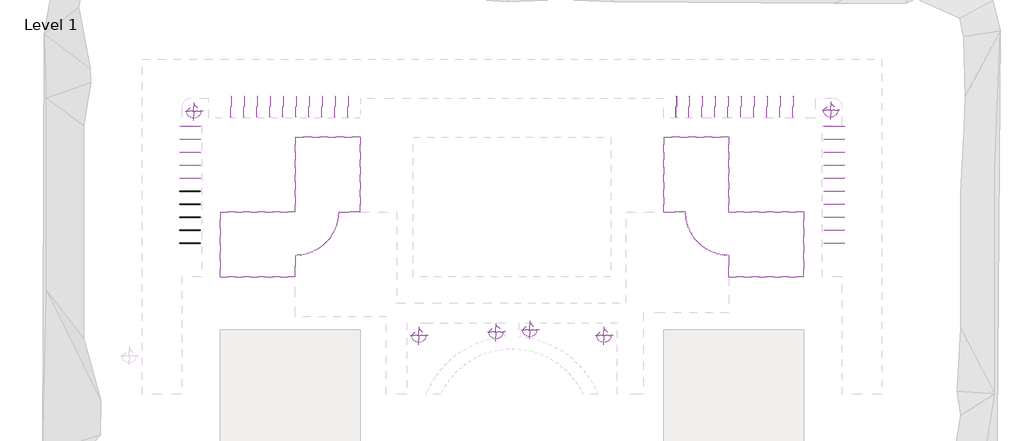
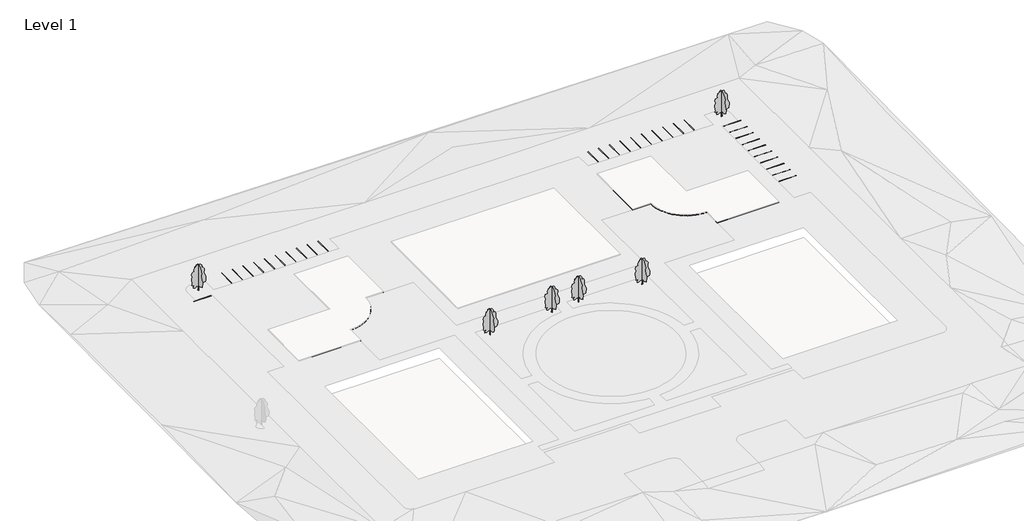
# One storey, part 3 of 3: 43 proxies, 6 geographic elements.
"""IFC4 building model written with IfcOpenShell, lengths in millimetres."""

import ifcopenshell
import ifcopenshell.guid

model = None  # the IFC model being written
_history = None  # IfcOwnerHistory: only IFC2X3 demands one
_inside = {}  # id of a spatial element -> (the spatial element, [elements in it])
_under = {}  # id of a project, library or spatial element -> (it, [spatial elements below it])
_declared = {}  # id of a project -> (the project, [libraries it declares])
_typed = {}  # id of a type object -> (the type object, [elements of that type])
_made_of = {}  # id of a material, layer set ... -> (it, [elements and type objects made of it])


def new_model(schema):
    """Start an empty IFC model of exactly this schema.

    Asked for "IFC4X3", IfcOpenShell would pick the latest addendum, in which some entities
    have other attributes; the version numbers below select the first issue.
    IFC2X3 requires an IfcOwnerHistory on every rooted entity: one is made here for all.
    """
    global model, _history
    if schema == "IFC4X3":
        model = ifcopenshell.file(schema_version=(4, 3, 0, 0))
    else:
        model = ifcopenshell.file(schema=schema)
    _inside.clear()
    _under.clear()
    _declared.clear()
    _typed.clear()
    _made_of.clear()
    _history = None
    if model.schema == "IFC2X3":
        org = make("IfcOrganization", Name="unknown")
        user = make(
            "IfcPersonAndOrganization",
            ThePerson=make("IfcPerson", FamilyName="unknown"),
            TheOrganization=org,
        )
        app = make(
            "IfcApplication",
            ApplicationDeveloper=org,
            Version="unknown",
            ApplicationFullName="unknown",
            ApplicationIdentifier="unknown",
        )
        _history = make(
            "IfcOwnerHistory",
            OwningUser=user,
            OwningApplication=app,
            ChangeAction="ADDED",
            CreationDate=0,
        )
    return model


def make(cls, **values):
    """One entity of the class cls with the attributes given. An attribute that is None is left unset."""
    return model.create_entity(
        cls, **{name: value for name, value in values.items() if value is not None}
    )


def rooted(cls, **values):
    """An entity with a GlobalId (a new one), such as an element, a storey or a relation."""
    return make(cls, GlobalId=ifcopenshell.guid.new(), OwnerHistory=_history, **values)


def si_unit(unit_type, name, prefix=None):
    """IfcSIUnit, for example si_unit("LENGTHUNIT", "METRE", prefix="MILLI")."""
    return make("IfcSIUnit", UnitType=unit_type, Prefix=prefix, Name=name)


def assignment(units):
    """IfcUnitAssignment: the units of a project."""
    return None if units is None else make("IfcUnitAssignment", Units=units)


def point(xyz):
    """IfcCartesianPoint."""
    return None if xyz is None else make("IfcCartesianPoint", Coordinates=xyz)


def direction(xyz):
    """IfcDirection."""
    return None if xyz is None else make("IfcDirection", DirectionRatios=xyz)


def frame(location, z_axis=None, x_axis=None):
    """IfcAxis2Placement3D, a coordinate frame: its origin and axes. An axis left out is left unset."""
    return make(
        "IfcAxis2Placement3D",
        Location=point(location),
        Axis=direction(z_axis),
        RefDirection=direction(x_axis),
    )


def origin():
    """The frame at (0, 0, 0) with its axes left unset."""
    return frame((0.0, 0.0, 0.0))


def origin_with_axes():
    """The frame at (0, 0, 0) with the z axis (0, 0, 1) and the x axis (1, 0, 0) written out."""
    return frame((0.0, 0.0, 0.0), z_axis=(0.0, 0.0, 1.0), x_axis=(1.0, 0.0, 0.0))


def place(relative_to, where):
    """IfcLocalPlacement: puts the frame where relative to a parent placement (None: the world)."""
    return make(
        "IfcLocalPlacement", PlacementRelTo=relative_to, RelativePlacement=where
    )


def context(
    kind, dimensions, precision=None, world=None, true_north=None, identifier=None
):
    """IfcGeometricRepresentationContext, for example the 3D "Model" context."""
    return make(
        "IfcGeometricRepresentationContext",
        ContextIdentifier=identifier,
        ContextType=kind,
        CoordinateSpaceDimension=dimensions,
        Precision=precision,
        WorldCoordinateSystem=world,
        TrueNorth=true_north,
    )


def project(units=None, contexts=None):
    """IfcProject with its units and contexts."""
    return rooted(
        "IfcProject",
        Name="project",
        RepresentationContexts=contexts,
        UnitsInContext=assignment(units),
    )


def spatial(cls, under=None, at=None, **own):
    """A site, building, storey or space (cls), placed at a placement, below another one or the project."""
    s = rooted(cls, ObjectPlacement=at, **own)
    if under is not None:
        _under.setdefault(under.id(), (under, []))[1].append(s)
    return s


def polyline(points):
    """IfcPolyline through the points."""
    return make("IfcPolyline", Points=[point(p) for p in points])


def point_list(points):
    """IfcCartesianPointList2D or 3D."""
    cls = (
        "IfcCartesianPointList2D" if len(points[0]) == 2 else "IfcCartesianPointList3D"
    )
    return make(cls, CoordList=points)


def outline(outer, holes=None, kind="AREA"):
    """IfcArbitraryClosedProfileDef: a profile drawn as a closed curve; with holes, ...WithVoids."""
    if holes is None:
        return make("IfcArbitraryClosedProfileDef", ProfileType=kind, OuterCurve=outer)
    return make(
        "IfcArbitraryProfileDefWithVoids",
        ProfileType=kind,
        OuterCurve=outer,
        InnerCurves=holes,
    )


def extrude(swept, where, along, depth):
    """IfcExtrudedAreaSolid: the profile swept, set in the frame where, extruded along a direction by depth."""
    return make(
        "IfcExtrudedAreaSolid",
        SweptArea=swept,
        Position=where,
        ExtrudedDirection=direction(along),
        Depth=depth,
    )


def triangles(points, corners, closed=None, point_numbers=None):
    """IfcTriangulatedFaceSet: each triangle names its three corners, points numbered from 1."""
    return make(
        "IfcTriangulatedFaceSet",
        Coordinates=point_list(points),
        Closed=closed,
        CoordIndex=corners,
        PnIndex=point_numbers,
    )


def shape(context_of_items, identifier, shape_type, items):
    """IfcShapeRepresentation: the items that make up one representation, for example the "Body"."""
    return make(
        "IfcShapeRepresentation",
        ContextOfItems=context_of_items,
        RepresentationIdentifier=identifier,
        RepresentationType=shape_type,
        Items=items,
    )


def source(mapping_origin, context_of_items, identifier, shape_type, items):
    """IfcRepresentationMap: a shape defined once, which mapped items show again and again."""
    return make(
        "IfcRepresentationMap",
        MappingOrigin=mapping_origin,
        MappedRepresentation=shape(context_of_items, identifier, shape_type, items),
    )


def transform(
    local_origin,
    x_axis=None,
    y_axis=None,
    z_axis=None,
    scale=None,
    scale2=None,
    scale3=None,
    uniform=True,
):
    """IfcCartesianTransformationOperator3D, or its non-uniform kind. x_axis, y_axis, z_axis: its Axis1, 2, 3."""
    if uniform:
        return make(
            "IfcCartesianTransformationOperator3D",
            Axis1=direction(x_axis),
            Axis2=direction(y_axis),
            LocalOrigin=point(local_origin),
            Scale=scale,
            Axis3=direction(z_axis),
        )
    return make(
        "IfcCartesianTransformationOperator3DnonUniform",
        Axis1=direction(x_axis),
        Axis2=direction(y_axis),
        LocalOrigin=point(local_origin),
        Scale=scale,
        Axis3=direction(z_axis),
        Scale2=scale2,
        Scale3=scale3,
    )


def mapped(mapping_source, mapping_target):
    """IfcMappedItem: shows the shape of a source again, moved by a transform."""
    return make(
        "IfcMappedItem", MappingSource=mapping_source, MappingTarget=mapping_target
    )


def made_of(thing, what):
    """Note that an element or type object is made of a material, layer set ...; save() writes the relation."""
    if what is not None:
        _made_of.setdefault(what.id(), (what, []))[1].append(thing)
    return thing


def element(
    cls,
    number,
    at=None,
    inside=None,
    cuts=None,
    type_object=None,
    material=None,
    context=None,
    identifier="Body",
    shape_type=None,
    held_by="IfcProductDefinitionShape",
    body=None,
    shapes=None,
    **own,
):
    """One element of the class cls, such as IfcWall. Its Tag is "e" and its number.

    at: its placement. inside: the storey or other place that contains it. cuts: it is an
    opening in that element (IfcRelVoidsElement). A single representation is given by context,
    identifier, shape_type and body (its items); several are given by shapes. held_by: the class
    of the entity that holds the representations. save() writes the other relations.
    """
    e = rooted(cls, Tag="e%d" % number, ObjectPlacement=at, **own)
    if body is not None:
        shapes = [shape(context, identifier, shape_type, body)]
    if shapes is not None:
        e.Representation = make(held_by, Representations=shapes)
    if inside is not None:
        _inside.setdefault(inside.id(), (inside, []))[1].append(e)
    if cuts is not None:
        rooted(
            "IfcRelVoidsElement", RelatingBuildingElement=cuts, RelatedOpeningElement=e
        )
    if type_object is not None:
        _typed.setdefault(type_object.id(), (type_object, []))[1].append(e)
    return made_of(e, material)


def aggregate(whole, parts):
    """IfcRelAggregates: a whole, such as a stair, and the parts it consists of."""
    return rooted("IfcRelAggregates", RelatingObject=whole, RelatedObjects=parts)


def save(model, path):
    """Write the relations noted so far, then the file.

    IfcRelAggregates (storeys below a building ...), IfcRelContainedInSpatialStructure (elements
    in a storey), IfcRelDefinesByType, IfcRelAssociatesMaterial and IfcRelDeclares: one each for
    every whole, place, type object, material and project.
    """
    for whole, parts in _under.values():
        aggregate(whole, parts)
    for where, things in _inside.values():
        rooted(
            "IfcRelContainedInSpatialStructure",
            RelatedElements=things,
            RelatingStructure=where,
        )
    for kind, things in _typed.values():
        rooted("IfcRelDefinesByType", RelatedObjects=things, RelatingType=kind)
    for what, things in _made_of.values():
        rooted("IfcRelAssociatesMaterial", RelatedObjects=things, RelatingMaterial=what)
    for by, libraries in _declared.values():
        rooted("IfcRelDeclares", RelatingContext=by, RelatedDefinitions=libraries)
    model.write(path)


def m_parking_space_4800_x_2400mm_90_deg_2b7ae786(model_context):
    return source(origin(), model_context, "Body", "SweptSolid", [
        extrude(outline(polyline([(-50.8, 0.0), (50.8, 0.0), (50.8, -4800.0), (-50.8, -4800.0), (-50.8, 0.0)])), origin_with_axes(), (0.0, 0.0, 1.0), 3.175),
    ])


def m_parking_space_4800_x_2400mm_90_deg_cf846cf7(model_context):
    return source(origin(), model_context, "Body", "SweptSolid", [
        extrude(outline(polyline([(-50.8, 0.0), (-50.8, 4800.0), (50.8, 4800.0), (50.8, 0.0), (-50.8, 0.0)])), origin_with_axes(), (0.0, 0.0, 1.0), 3.175),
    ])


def m_rpc_tree_deciduous_red_ash_7_6_meters_16c8020d(model_context):
    return source(origin(), model_context, "Body", "Tessellation", [
        triangles([(-1640.6350319, 0.0, 6.17e-05), (-1597.2618073, -375.9250554, 6.17e-05), (-1473.7362076, -721.1521299, 6.17e-05), (-1279.9481815, -1025.7899305, 6.17e-05), (-1025.7900759, -1279.9483269, 6.17e-05), (-721.1519119, -1473.7357716, 6.17e-05), (-375.9249101, -1597.2618073, 6.17e-05), (7.17e-05, -1640.6350319, 6.17e-05), (375.9250917, -1597.2619526, 6.17e-05), (721.1521299, -1473.7360622, 6.17e-05), (1025.7900759, -1279.9481815, 6.17e-05), (1279.9486176, -1025.7900759, 6.17e-05), (1473.7359169, -721.1518393, 6.17e-05), (1597.2618073, -375.9248011, 6.17e-05), (1640.6350319, 0.0001434, 6.17e-05), (-0.0002151, 1640.6350319, 6.17e-05), (-1.07e-05, -102.5763152, 0.0), (2.5e-05, -100.9809819, 1191.4187742), (3.22e-05, -129.5410573, 1533.7667004), (7e-07, -437.6736119, 1554.0757805), (-5.76e-05, -973.8285673, 1474.4268631), (-0.0001401, -1898.6961697, 1943.5624718), (-0.0001409, -2005.9272697, 2292.063438), (-0.0001357, -2139.9660358, 2935.4493118), (-0.0001116, -2099.7546822, 3605.6435783), (-5.8e-05, -1735.814106, 4130.1484818), (-5.5e-06, -1523.3897175, 5147.0898972), (-3.5e-06, -1711.0423622, 5870.899205), (4.78e-05, -1402.7536217, 6514.2855148), (0.0001565, -625.3287638, 7439.1534805), (0.000198, -272.4836404, 7598.1990051), (0.0002655, 393.3664327, 7532.9808929), (0.0003113, 1023.3488731, 6862.7869171), (0.0003141, 1211.0034073, 6299.8236053), (0.0003314, 1492.4837551, 5897.706871), (0.0003588, 1800.7742397, 5736.8608749), (0.0003522, 1814.1780727, 5468.7830521), (0.0003514, 1894.6015068, 5160.4937302), (0.0003267, 1760.5627407, 4798.5890762), (0.0003288, 1881.1975285, 4450.088546), (0.000327, 2001.8324615, 3967.5488136), (0.0003203, 1975.0247955, 3833.5096115), (0.0002869, 1747.159053, 3511.8164566), (0.0002722, 1732.7516476, 3069.4885139), (0.0002625, 1720.3510963, 2788.0068581), (0.0002535, 1733.7549294, 2439.5063278), (0.0002406, 1747.159053, 1956.9668861), (0.0002166, 1559.5045189, 1809.523851), (0.0001802, 1211.0038433, 1809.523851), (0.0001822, 1371.8504208, 1313.580431), (0.0001711, 1344.9556961, 1032.1683203), (0.0001512, 1100.1359739, 1224.6137684), (9.84e-05, 627.810589, 1103.8028286), (9.77e-05, 550.2637599, 1353.49907), (6.27e-05, 215.346067, 1350.4488201), (5.01e-05, 130.4579254, 1225.1105404), (3.26e-05, 79.3405423, 816.1354311), (1.17e-05, 111.8716144, 1.28e-05), (-110.5798692, 4.8e-06, 4.45e-05), (-66.5363775, -9.62e-05, 831.3140104), (-128.9679092, -0.0001356, 1184.825572), (-290.0246482, -0.0001497, 1361.7341778), (-482.3670685, -0.0001405, 1355.1302204), (-794.1778324, -0.0001027, 1152.7338535), (-1424.1601639, -6.88e-05, 1099.1184488), (-1415.4458702, -7.33e-05, 1133.7810133), (-1406.1451298, -7.8e-05, 1169.6158899), (-1395.6722225, -8.3e-05, 1207.7952456), (-1383.4407017, -8.85e-05, 1249.4921917), (-1368.8645565, -9.46e-05, 1295.8774418), (-1351.3574856, -0.0001016, 1348.1257061), (-1330.3333328, -0.0001096, 1407.4074074), (-1303.8382931, -0.0001173, 1462.3908245), (-1271.0123898, -0.0001236, 1502.6024689), (-1232.9109364, -0.0001286, 1530.5039635), (-1190.588883, -0.0001326, 1548.5586754), (-1145.1018339, -0.0001358, 1559.2267742), (-1097.5041578, -0.0001386, 1564.971191), (-1048.8515316, -0.0001411, 1568.2539848), (-1196.294058, -0.0001698, 1863.1393284), (-1625.218531, -0.0001415, 1782.7160397), (-1866.4879612, -0.0001597, 2023.9861965), (-1719.0452168, -0.0001869, 2198.236607), (-1759.2568611, -0.0002427, 2680.7764847), (-1906.6994602, -0.0003433, 3578.8359123), (-1893.4979404, -0.0003882, 3950.7687332), (-1715.4032879, -0.0004676, 4551.3483536), (-1946.9112499, -0.0005333, 5187.3013962), (-1772.6605488, -0.0006144, 5803.88004), (-1410.7561855, -0.000643, 5911.1112854), (-1135.4252443, -0.0006608, 5959.6792511), (-1236.5059204, -0.0007209, 6500.8816818), (-928.2163805, -0.0007999, 7050.4411606), (-351.8493811, -0.0008874, 7573.192392), (117.2860368, -0.0009111, 7600.000058), (532.8066133, -0.0009277, 7586.5956436), (881.3074705, -0.000887, 7117.4603256), (945.3842279, -0.0008079, 6430.5952744), (936.1832634, -0.0007775, 6178.7100677), (1283.4236961, -0.0008311, 6500.8816818), (1618.5208294, -0.0007802, 5951.3222031), (1605.1169964, -0.0007177, 5432.2143539), (1545.3907001, -0.0006383, 4788.0519287), (1739.1557625, -0.0005793, 4222.2222221), (2126.1689129, -0.0005054, 3460.0925789), (2138.5076946, -0.0004374, 2885.2169128), (2060.8486267, -0.0003521, 2198.2364616), (1940.213839, -0.0003133, 1916.7548058), (1698.9439728, -0.0002996, 1889.9471397), (1229.8082188, -0.0002535, 1675.4849396), (814.2876514, -0.0002002, 1380.5997414), (256.8007496, -0.0002044, 1620.3048775), (92.8066444, -0.0001762, 1443.8352711), (103.8818677, -4.5e-06, 3.51e-05)], [[15, 16, 1], [14, 15, 1], [14, 1, 2], [13, 14, 2], [13, 2, 3], [13, 3, 4], [12, 13, 4], [11, 12, 4], [11, 4, 5], [11, 5, 6], [11, 6, 7], [11, 7, 8], [11, 8, 9], [11, 9, 10], [50, 51, 52], [57, 58, 17], [57, 17, 18], [56, 57, 18], [56, 18, 19], [55, 56, 19], [49, 50, 52], [52, 53, 54], [49, 52, 54], [35, 36, 37], [46, 47, 48], [46, 48, 49], [21, 22, 23], [20, 21, 23], [20, 23, 24], [20, 24, 25], [20, 25, 26], [19, 20, 26], [19, 26, 27], [45, 46, 49], [31, 32, 33], [30, 31, 33], [29, 30, 33], [29, 33, 34], [28, 29, 34], [27, 28, 34], [19, 27, 34], [19, 34, 35], [19, 35, 37], [19, 37, 38], [19, 38, 39], [19, 39, 40], [19, 40, 41], [19, 41, 42], [19, 42, 43], [19, 43, 44], [19, 44, 45], [19, 45, 49], [19, 49, 54], [55, 19, 54], [64, 65, 66], [64, 66, 67], [64, 67, 68], [99, 100, 101], [64, 68, 69], [64, 69, 70], [64, 70, 71], [114, 59, 60], [113, 114, 60], [113, 60, 61], [113, 61, 62], [64, 71, 72], [64, 72, 73], [64, 73, 74], [64, 74, 75], [64, 75, 76], [64, 76, 77], [64, 77, 78], [64, 78, 79], [63, 64, 79], [81, 82, 83], [80, 81, 83], [99, 101, 102], [107, 108, 109], [110, 111, 112], [88, 89, 90], [87, 88, 90], [87, 90, 91], [80, 83, 84], [95, 96, 97], [95, 97, 98], [94, 95, 98], [93, 94, 98], [92, 93, 98], [91, 92, 98], [91, 98, 99], [87, 91, 99], [87, 99, 102], [87, 102, 103], [87, 103, 104], [86, 87, 104], [85, 86, 104], [84, 85, 104], [80, 84, 104], [80, 104, 105], [80, 105, 106], [80, 106, 107], [80, 107, 109], [80, 109, 110], [80, 110, 112], [79, 80, 112], [63, 79, 112], [62, 63, 112], [113, 62, 112]], closed=False),
    ])


model = new_model("IFC4")

# Units and contexts
model_context = context("Model", 3, world=origin())
ifc_project = project(units=[si_unit("LENGTHUNIT", "METRE", prefix="MILLI")], contexts=[model_context])

# Site, building, storey
site = spatial("IfcSite", under=ifc_project)
building = spatial("IfcBuilding", under=site)
storey = spatial("IfcBuildingStorey", under=building, Name="Level 1", Elevation=0.0)

# Proxies
placement = place(None, origin())
element("IfcBuildingElementProxy", 1, Name="Building Element Proxy", at=placement, inside=storey, context=model_context, shape_type="Tessellation", body=[
    triangles([(-35191.6798462, 32541.3578979, 3047.8404167), (-35191.6798462, 32541.3578979, 3049.9998779), (-35191.6798462, 48882.337207, 3047.8404167), (-35191.6798462, 48882.337207, 3049.9998779), (-35191.6798462, 49849.357251, 3047.8404167), (-35191.6798462, 49849.357251, 3049.9998779), (-43466.7003296, 49849.357251, 3047.8404167), (-43466.7003296, 49849.357251, 3049.9998779), (-50191.680542, 49849.357251, 3047.8404167), (-50191.680542, 49849.357251, 3049.9998779), (-50191.680542, 44684.7283081, 3047.8404167), (-50191.680542, 44684.7283081, 3049.9998779), (-50191.680542, 32541.3578979, 3047.8404167), (-50191.680542, 32541.3578979, 3049.9998779), (-66003.8409668, 32541.3578979, 3047.8404167), (-66003.8409668, 32541.3578979, 3049.9998779), (-67499.679895, 32541.3578979, 3047.8404167), (-67499.679895, 32541.3578979, 3049.9998779), (-67499.679895, 31392.5861572, 3047.8404167), (-67499.679895, 31392.5861572, 3049.9998779), (-67499.679895, 17541.3572021, 3047.8404167), (-67499.679895, 17541.3572021, 3049.9998779)], [[1, 4, 2], [1, 3, 4], [3, 6, 4], [3, 5, 6], [5, 8, 6], [5, 7, 8], [7, 10, 8], [7, 9, 10], [9, 12, 10], [9, 11, 12], [11, 14, 12], [11, 13, 14], [13, 16, 14], [13, 15, 16], [15, 18, 16], [15, 17, 18], [17, 20, 18], [17, 19, 20], [19, 22, 20], [19, 21, 22]], closed=False),
    triangles([(-67499.679895, 17541.3572021, 3047.8404167), (-67499.679895, 17541.3572021, 3049.9998779), (-60277.078894, 17541.3572021, 3047.8404167), (-60277.078894, 17541.3572021, 3049.9998779), (-50191.680542, 17541.3572021, 3047.8404167), (-50191.680542, 17541.3572021, 3049.9998779)], [[1, 4, 2], [1, 3, 4], [3, 6, 4], [3, 5, 6]], closed=False),
    triangles([(-50191.680542, 17541.3572021, 3047.8404167), (-50191.680542, 17541.3572021, 3049.9998779), (-50191.680542, 22541.3566589, 3047.8404167), (-50191.680542, 22541.3566589, 3049.9998779), (-49211.5078125, 22589.5095337, 3047.8404167), (-49211.5078125, 22589.5095337, 3049.9998779), (-48240.7763672, 22733.5053955, 3047.8404167), (-48240.7763672, 22733.5053955, 3049.9998779), (-47288.8344727, 22971.9536316, 3047.8404167), (-47288.8344727, 22971.9536316, 3049.9998779), (-46364.8443604, 23302.5613586, 3047.8404167), (-46364.8443604, 23302.5613586, 3049.9998779), (-45477.7124634, 23722.14505, 3047.8404167), (-45477.7124634, 23722.14505, 3049.9998779), (-44635.9777954, 24226.6607666, 3047.8404167), (-44635.9777954, 24226.6607666, 3049.9998779), (-43847.7468384, 24811.2529907, 3047.8404167), (-43847.7468384, 24811.2529907, 3049.9998779), (-43120.6144775, 25470.2895081, 3047.8404167), (-43120.6144775, 25470.2895081, 3049.9998779), (-42461.5756348, 26197.4241943, 3047.8404167), (-42461.5756348, 26197.4241943, 3049.9998779), (-41876.9834106, 26985.6551514, 3047.8404167), (-41876.9834106, 26985.6551514, 3049.9998779), (-41372.4700195, 27827.3898193, 3047.8404167), (-41372.4700195, 27827.3898193, 3049.9998779), (-40952.8863281, 28714.5240417, 3047.8404167), (-40952.8863281, 28714.5240417, 3049.9998779), (-40622.2786011, 29638.5095032, 3047.8404167), (-40622.2786011, 29638.5095032, 3049.9998779), (-40383.8280396, 30590.4537231, 3047.8404167), (-40383.8280396, 30590.4537231, 3049.9998779), (-40239.8321777, 31561.1851685, 3047.8404167), (-40239.8321777, 31561.1851685, 3049.9998779), (-40191.6816284, 32541.3578979, 3047.8404167), (-40191.6816284, 32541.3578979, 3049.9998779), (-35191.6798462, 32541.3578979, 3047.8404167), (-35191.6798462, 32541.3578979, 3049.9998779)], [[1, 4, 2], [1, 3, 4], [3, 6, 4], [3, 5, 6], [5, 8, 6], [5, 7, 8], [7, 10, 8], [7, 9, 10], [9, 12, 10], [9, 11, 12], [11, 14, 12], [11, 13, 14], [13, 16, 14], [13, 15, 16], [15, 18, 16], [15, 17, 18], [17, 20, 18], [17, 19, 20], [19, 22, 20], [19, 21, 22], [21, 24, 22], [21, 23, 24], [23, 26, 24], [23, 25, 26], [25, 28, 26], [25, 27, 28], [27, 30, 28], [27, 29, 30], [29, 32, 30], [29, 31, 32], [31, 34, 32], [31, 33, 34], [33, 36, 34], [33, 35, 36], [35, 38, 36], [35, 37, 38]], closed=False),
    triangles([(-67499.679895, 17541.3572021, 3047.8404167), (-50191.680542, 17541.3572021, 3047.8404167), (-50191.680542, 22541.3566589, 3047.8404167), (-49211.5078125, 22589.5095337, 3047.8404167), (-48240.7763672, 22733.5053955, 3047.8404167), (-47288.8344727, 22971.9536316, 3047.8404167), (-46364.8443604, 23302.5613586, 3047.8404167), (-45477.7124634, 23722.14505, 3047.8404167), (-44635.9777954, 24226.6607666, 3047.8404167), (-43847.7468384, 24811.2529907, 3047.8404167), (-43120.6144775, 25470.2895081, 3047.8404167), (-42461.5756348, 26197.4241943, 3047.8404167), (-41876.9834106, 26985.6551514, 3047.8404167), (-41372.4700195, 27827.3898193, 3047.8404167), (-40952.8863281, 28714.5240417, 3047.8404167), (-40622.2786011, 29638.5095032, 3047.8404167), (-40383.8280396, 30590.4537231, 3047.8404167), (-40239.8321777, 31561.1851685, 3047.8404167), (-40191.6816284, 32541.3578979, 3047.8404167), (-35191.6798462, 32541.3578979, 3047.8404167), (-35191.6798462, 49849.357251, 3047.8404167), (-50191.680542, 49849.357251, 3047.8404167), (-50191.680542, 32541.3578979, 3047.8404167), (-67499.679895, 32541.3578979, 3047.8404167)], [[1, 2, 3], [1, 3, 24], [23, 4, 5], [4, 23, 3], [23, 5, 6], [24, 3, 23], [19, 22, 23], [8, 9, 23], [8, 23, 7], [6, 7, 23], [10, 23, 9], [23, 11, 12], [23, 12, 13], [14, 15, 23], [14, 23, 13], [15, 16, 23], [17, 18, 23], [23, 18, 19], [19, 20, 21], [21, 22, 19], [23, 16, 17], [23, 10, 11]], closed=False),
])
element("IfcBuildingElementProxy", 2, Name="Building Element Proxy", at=placement, inside=storey, context=model_context, shape_type="Tessellation", body=[
    triangles([(49808.3178955, 17541.3572021, 3050.6207703), (49808.3178955, 17541.3572021, 3049.9998779), (67116.3172485, 17541.3572021, 3050.6207703), (67116.3172485, 17541.3572021, 3049.9998779)], [[1, 4, 2], [1, 3, 4]], closed=False),
    triangles([(67116.3172485, 17541.3572021, 3050.6207703), (67116.3172485, 17541.3572021, 3049.9998779), (67116.3172485, 23284.5205994, 3050.6207703), (67116.3172485, 23284.5205994, 3049.9998779), (67116.3172485, 32541.3578979, 3050.6207703), (67116.3172485, 32541.3578979, 3049.9998779), (62183.8555298, 32541.3578979, 3050.6207703), (62183.8555298, 32541.3578979, 3049.9998779), (49808.3178955, 32541.3578979, 3050.6207703), (49808.3178955, 32541.3578979, 3049.9998779), (49808.3178955, 49849.357251, 3050.6207703), (49808.3178955, 49849.357251, 3049.9998779), (40850.0833008, 49849.357251, 3050.6207703), (40850.0833008, 49849.357251, 3049.9998779), (34808.3195251, 49849.357251, 3050.6207703), (34808.3195251, 49849.357251, 3049.9998779), (34808.3195251, 32541.3578979, 3050.6207703), (34808.3195251, 32541.3578979, 3049.9998779)], [[1, 4, 2], [1, 3, 4], [3, 6, 4], [3, 5, 6], [5, 8, 6], [5, 7, 8], [7, 10, 8], [7, 9, 10], [9, 12, 10], [9, 11, 12], [11, 14, 12], [11, 13, 14], [13, 16, 14], [13, 15, 16], [15, 18, 16], [15, 17, 18]], closed=False),
    triangles([(34808.3195251, 32541.3578979, 3050.6207703), (34808.3195251, 32541.3578979, 3049.9998779), (38450.1437439, 32541.3578979, 3050.6207703), (38450.1437439, 32541.3578979, 3049.9998779), (39808.3189819, 32541.3578979, 3050.6207703), (39808.3189819, 32541.3578979, 3049.9998779), (39856.4695313, 31561.1851685, 3050.6207703), (39856.4695313, 31561.1851685, 3049.9998779), (40000.4653931, 30590.4537231, 3050.6207703), (40000.4653931, 30590.4537231, 3049.9998779), (40238.9159546, 29638.5095032, 3050.6207703), (40238.9159546, 29638.5095032, 3049.9998779), (40569.5236816, 28714.5240417, 3050.6207703), (40569.5236816, 28714.5240417, 3049.9998779), (40989.107373, 27827.3898193, 3050.6207703), (40989.107373, 27827.3898193, 3049.9998779), (41493.6207642, 26985.6551514, 3050.6207703), (41493.6207642, 26985.6551514, 3049.9998779), (42078.2129883, 26197.4241943, 3050.6207703), (42078.2129883, 26197.4241943, 3049.9998779), (42737.2518311, 25470.2895081, 3050.6207703), (42737.2518311, 25470.2895081, 3049.9998779), (43464.3841919, 24811.2529907, 3050.6207703), (43464.3841919, 24811.2529907, 3049.9998779), (44252.6151489, 24226.6607666, 3050.6207703), (44252.6151489, 24226.6607666, 3049.9998779), (45094.3498169, 23722.14505, 3050.6207703), (45094.3498169, 23722.14505, 3049.9998779), (45981.4863647, 23302.5613586, 3050.6207703), (45981.4863647, 23302.5613586, 3049.9998779), (46905.4718262, 22971.9536316, 3050.6207703), (46905.4718262, 22971.9536316, 3049.9998779), (47857.4137207, 22733.5053955, 3050.6207703), (47857.4137207, 22733.5053955, 3049.9998779), (48828.1498169, 22589.5095337, 3050.6207703), (48828.1498169, 22589.5095337, 3049.9998779), (49808.3178955, 22541.3566589, 3050.6207703), (49808.3178955, 22541.3566589, 3049.9998779), (49808.3178955, 17541.3572021, 3050.6207703), (49808.3178955, 17541.3572021, 3049.9998779)], [[1, 4, 2], [1, 3, 4], [3, 6, 4], [3, 5, 6], [5, 8, 6], [5, 7, 8], [7, 10, 8], [7, 9, 10], [9, 12, 10], [9, 11, 12], [11, 14, 12], [11, 13, 14], [13, 16, 14], [13, 15, 16], [15, 18, 16], [15, 17, 18], [17, 20, 18], [17, 19, 20], [19, 22, 20], [19, 21, 22], [21, 24, 22], [21, 23, 24], [23, 26, 24], [23, 25, 26], [25, 28, 26], [25, 27, 28], [27, 30, 28], [27, 29, 30], [29, 32, 30], [29, 31, 32], [31, 34, 32], [31, 33, 34], [33, 36, 34], [33, 35, 36], [35, 38, 36], [35, 37, 38], [37, 40, 38], [37, 39, 40]], closed=False),
    triangles([(67116.3172485, 17541.3572021, 3050.6207703), (67116.3172485, 32541.3578979, 3050.6207703), (49808.3178955, 32541.3578979, 3050.6207703), (49808.3178955, 49849.357251, 3050.6207703), (34808.3195251, 49849.357251, 3050.6207703), (34808.3195251, 32541.3578979, 3050.6207703), (39808.3189819, 32541.3578979, 3050.6207703), (39856.4695313, 31561.1851685, 3050.6207703), (40000.4653931, 30590.4537231, 3050.6207703), (40238.9159546, 29638.5095032, 3050.6207703), (40569.5236816, 28714.5240417, 3050.6207703), (40989.107373, 27827.3898193, 3050.6207703), (41493.6207642, 26985.6551514, 3050.6207703), (42078.2129883, 26197.4241943, 3050.6207703), (42737.2518311, 25470.2895081, 3050.6207703), (43464.3841919, 24811.2529907, 3050.6207703), (44252.6151489, 24226.6607666, 3050.6207703), (45094.3498169, 23722.14505, 3050.6207703), (45981.4863647, 23302.5613586, 3050.6207703), (46905.4718262, 22971.9536316, 3050.6207703), (47857.4137207, 22733.5053955, 3050.6207703), (48828.1498169, 22589.5095337, 3050.6207703), (49808.3178955, 22541.3566589, 3050.6207703), (49808.3178955, 17541.3572021, 3050.6207703)], [[11, 3, 10], [11, 12, 3], [14, 3, 13], [3, 12, 13], [15, 3, 14], [5, 6, 7], [4, 5, 7], [3, 8, 9], [8, 3, 7], [10, 3, 9], [3, 15, 16], [21, 3, 20], [22, 3, 21], [24, 1, 23], [23, 1, 2], [23, 3, 22], [3, 17, 18], [3, 18, 19], [4, 7, 3], [3, 19, 20], [23, 2, 3], [3, 16, 17]], closed=False),
])
m_parking_space_4800_x_2400mm_90_deg_shape = m_parking_space_4800_x_2400mm_90_deg_2b7ae786(model_context)
element("IfcBuildingElementProxy", 3, Name="M_Parking Space : 4800 x 2400mm - 90 deg", ObjectType="M_Parking Space : 4800 x 2400mm - 90 deg", at=placement, inside=storey, context=model_context, shape_type="MappedRepresentation", body=[
    mapped(m_parking_space_4800_x_2400mm_90_deg_shape, transform((-72091.6809312, 52283.3477296, 3050.7803686), x_axis=(0.0, -1.0, 0.0), y_axis=(1.0, 0.0, 0.0), z_axis=(0.0, 0.0, 1.0))),
])
element("IfcBuildingElementProxy", 4, Name="M_Parking Space : 4800 x 2400mm - 90 deg", ObjectType="M_Parking Space : 4800 x 2400mm - 90 deg", at=placement, inside=storey, context=model_context, shape_type="MappedRepresentation", body=[
    mapped(m_parking_space_4800_x_2400mm_90_deg_shape, transform((-72091.6809312, 49283.3477296, 2677.9381055), x_axis=(0.0, -1.0, 0.0), y_axis=(1.0, 0.0, 0.0), z_axis=(0.0, 0.0, 1.0))),
])
element("IfcBuildingElementProxy", 5, Name="M_Parking Space : 4800 x 2400mm - 90 deg", ObjectType="M_Parking Space : 4800 x 2400mm - 90 deg", at=placement, inside=storey, context=model_context, shape_type="MappedRepresentation", body=[
    mapped(m_parking_space_4800_x_2400mm_90_deg_shape, transform((-72091.6809312, 46283.3477296, 2305.0958423), x_axis=(0.0, -1.0, 0.0), y_axis=(1.0, 0.0, 0.0), z_axis=(0.0, 0.0, 1.0))),
])
element("IfcBuildingElementProxy", 6, Name="M_Parking Space : 4800 x 2400mm - 90 deg", ObjectType="M_Parking Space : 4800 x 2400mm - 90 deg", at=placement, inside=storey, context=model_context, shape_type="MappedRepresentation", body=[
    mapped(m_parking_space_4800_x_2400mm_90_deg_shape, transform((-72091.6809312, 43283.3477296, 1932.2535791), x_axis=(0.0, -1.0, 0.0), y_axis=(1.0, 0.0, 0.0), z_axis=(0.0, 0.0, 1.0))),
])
element("IfcBuildingElementProxy", 7, Name="M_Parking Space : 4800 x 2400mm - 90 deg", ObjectType="M_Parking Space : 4800 x 2400mm - 90 deg", at=placement, inside=storey, context=model_context, shape_type="MappedRepresentation", body=[
    mapped(m_parking_space_4800_x_2400mm_90_deg_shape, transform((-72091.6809312, 40283.3477296, 1559.4113159), x_axis=(0.0, -1.0, 0.0), y_axis=(1.0, 0.0, 0.0), z_axis=(0.0, 0.0, 1.0))),
])
element("IfcBuildingElementProxy", 8, Name="M_Parking Space : 4800 x 2400mm - 90 deg", ObjectType="M_Parking Space : 4800 x 2400mm - 90 deg", at=placement, inside=storey, context=model_context, shape_type="MappedRepresentation", body=[
    mapped(m_parking_space_4800_x_2400mm_90_deg_shape, transform((-72091.6809312, 37283.3477296, 1186.5690527), x_axis=(0.0, -1.0, 0.0), y_axis=(1.0, 0.0, 0.0), z_axis=(0.0, 0.0, 1.0))),
])
element("IfcBuildingElementProxy", 9, Name="M_Parking Space : 4800 x 2400mm - 90 deg", ObjectType="M_Parking Space : 4800 x 2400mm - 90 deg", at=placement, inside=storey, context=model_context, shape_type="MappedRepresentation", body=[
    mapped(m_parking_space_4800_x_2400mm_90_deg_shape, transform((-72091.6809312, 34283.3477296, 813.7267895), x_axis=(0.0, -1.0, 0.0), y_axis=(1.0, 0.0, 0.0), z_axis=(0.0, 0.0, 1.0))),
])
element("IfcBuildingElementProxy", 10, Name="M_Parking Space : 4800 x 2400mm - 90 deg", ObjectType="M_Parking Space : 4800 x 2400mm - 90 deg", at=placement, inside=storey, context=model_context, shape_type="MappedRepresentation", body=[
    mapped(m_parking_space_4800_x_2400mm_90_deg_shape, transform((-72091.6809312, 31283.3477296, 440.8845264), x_axis=(0.0, -1.0, 0.0), y_axis=(1.0, 0.0, 0.0), z_axis=(0.0, 0.0, 1.0))),
])
element("IfcBuildingElementProxy", 11, Name="M_Parking Space : 4800 x 2400mm - 90 deg", ObjectType="M_Parking Space : 4800 x 2400mm - 90 deg", at=placement, inside=storey, context=model_context, shape_type="MappedRepresentation", body=[
    mapped(m_parking_space_4800_x_2400mm_90_deg_shape, transform((-72091.6809312, 28283.3477296, 68.0422632), x_axis=(0.0, -1.0, 0.0), y_axis=(1.0, 0.0, 0.0), z_axis=(0.0, 0.0, 1.0))),
])
element("IfcBuildingElementProxy", 12, Name="M_Parking Space : 4800 x 2400mm - 90 deg", ObjectType="M_Parking Space : 4800 x 2400mm - 90 deg", at=placement, inside=storey, context=model_context, shape_type="MappedRepresentation", body=[
    mapped(m_parking_space_4800_x_2400mm_90_deg_shape, transform((-72091.6809312, 25283.3477296, -304.8), x_axis=(0.0, -1.0, 0.0), y_axis=(1.0, 0.0, 0.0), z_axis=(0.0, 0.0, 1.0))),
])
element("IfcBuildingElementProxy", 13, Name="M_Parking Space : 4800 x 2400mm - 90 deg", ObjectType="M_Parking Space : 4800 x 2400mm - 90 deg", at=placement, inside=storey, context=model_context, shape_type="MappedRepresentation", body=[
    mapped(m_parking_space_4800_x_2400mm_90_deg_shape, transform((37727.0851752, 54488.1216781, 2766.1912155), x_axis=(-1.0, 0.0, 0.0), y_axis=(0.0, -1.0, 0.0), z_axis=(0.0, 0.0, 1.0))),
])
element("IfcBuildingElementProxy", 14, Name="M_Parking Space : 4800 x 2400mm - 90 deg", ObjectType="M_Parking Space : 4800 x 2400mm - 90 deg", at=placement, inside=storey, context=model_context, shape_type="MappedRepresentation", body=[
    mapped(m_parking_space_4800_x_2400mm_90_deg_shape, transform((37676.2851752, 54488.1216781, 3050.7803686), x_axis=(-1.0, 0.0, 0.0), y_axis=(0.0, -1.0, 0.0), z_axis=(0.0, 0.0, 1.0))),
])
element("IfcBuildingElementProxy", 15, Name="M_Parking Space : 4800 x 2400mm - 90 deg", ObjectType="M_Parking Space : 4800 x 2400mm - 90 deg", at=placement, inside=storey, context=model_context, shape_type="MappedRepresentation", body=[
    mapped(m_parking_space_4800_x_2400mm_90_deg_shape, transform((40676.2851752, 54488.1216781, 3050.7803686), x_axis=(-1.0, 0.0, 0.0), y_axis=(0.0, -1.0, 0.0), z_axis=(0.0, 0.0, 1.0))),
])
element("IfcBuildingElementProxy", 16, Name="M_Parking Space : 4800 x 2400mm - 90 deg", ObjectType="M_Parking Space : 4800 x 2400mm - 90 deg", at=placement, inside=storey, context=model_context, shape_type="MappedRepresentation", body=[
    mapped(m_parking_space_4800_x_2400mm_90_deg_shape, transform((43676.2851752, 54488.1216781, 3050.7803686), x_axis=(-1.0, 0.0, 0.0), y_axis=(0.0, -1.0, 0.0), z_axis=(0.0, 0.0, 1.0))),
])
element("IfcBuildingElementProxy", 17, Name="M_Parking Space : 4800 x 2400mm - 90 deg", ObjectType="M_Parking Space : 4800 x 2400mm - 90 deg", at=placement, inside=storey, context=model_context, shape_type="MappedRepresentation", body=[
    mapped(m_parking_space_4800_x_2400mm_90_deg_shape, transform((46676.2851752, 54488.1216781, 3050.7803686), x_axis=(-1.0, 0.0, 0.0), y_axis=(0.0, -1.0, 0.0), z_axis=(0.0, 0.0, 1.0))),
])
element("IfcBuildingElementProxy", 18, Name="M_Parking Space : 4800 x 2400mm - 90 deg", ObjectType="M_Parking Space : 4800 x 2400mm - 90 deg", at=placement, inside=storey, context=model_context, shape_type="MappedRepresentation", body=[
    mapped(m_parking_space_4800_x_2400mm_90_deg_shape, transform((49676.2851752, 54488.1216781, 3050.7803686), x_axis=(-1.0, 0.0, 0.0), y_axis=(0.0, -1.0, 0.0), z_axis=(0.0, 0.0, 1.0))),
])
element("IfcBuildingElementProxy", 19, Name="M_Parking Space : 4800 x 2400mm - 90 deg", ObjectType="M_Parking Space : 4800 x 2400mm - 90 deg", at=placement, inside=storey, context=model_context, shape_type="MappedRepresentation", body=[
    mapped(m_parking_space_4800_x_2400mm_90_deg_shape, transform((52676.2851752, 54488.1216781, 3050.7803686), x_axis=(-1.0, 0.0, 0.0), y_axis=(0.0, -1.0, 0.0), z_axis=(0.0, 0.0, 1.0))),
])
element("IfcBuildingElementProxy", 20, Name="M_Parking Space : 4800 x 2400mm - 90 deg", ObjectType="M_Parking Space : 4800 x 2400mm - 90 deg", at=placement, inside=storey, context=model_context, shape_type="MappedRepresentation", body=[
    mapped(m_parking_space_4800_x_2400mm_90_deg_shape, transform((55676.2851752, 54488.1216781, 3050.7803686), x_axis=(-1.0, 0.0, 0.0), y_axis=(0.0, -1.0, 0.0), z_axis=(0.0, 0.0, 1.0))),
])
element("IfcBuildingElementProxy", 21, Name="M_Parking Space : 4800 x 2400mm - 90 deg", ObjectType="M_Parking Space : 4800 x 2400mm - 90 deg", at=placement, inside=storey, context=model_context, shape_type="MappedRepresentation", body=[
    mapped(m_parking_space_4800_x_2400mm_90_deg_shape, transform((58676.2851752, 54488.1216781, 3050.7803686), x_axis=(-1.0, 0.0, 0.0), y_axis=(0.0, -1.0, 0.0), z_axis=(0.0, 0.0, 1.0))),
])
element("IfcBuildingElementProxy", 22, Name="M_Parking Space : 4800 x 2400mm - 90 deg", ObjectType="M_Parking Space : 4800 x 2400mm - 90 deg", at=placement, inside=storey, context=model_context, shape_type="MappedRepresentation", body=[
    mapped(m_parking_space_4800_x_2400mm_90_deg_shape, transform((61676.2851752, 54488.1216781, 3050.7803686), x_axis=(-1.0, 0.0, 0.0), y_axis=(0.0, -1.0, 0.0), z_axis=(0.0, 0.0, 1.0))),
])
element("IfcBuildingElementProxy", 23, Name="M_Parking Space : 4800 x 2400mm - 90 deg", ObjectType="M_Parking Space : 4800 x 2400mm - 90 deg", at=placement, inside=storey, context=model_context, shape_type="MappedRepresentation", body=[
    mapped(m_parking_space_4800_x_2400mm_90_deg_shape, transform((64676.2851752, 54488.1216781, 3050.7803686), x_axis=(-1.0, 0.0, 0.0), y_axis=(0.0, -1.0, 0.0), z_axis=(0.0, 0.0, 1.0))),
])
m_parking_space_4800_x_2400mm_90_deg_2_shape = m_parking_space_4800_x_2400mm_90_deg_cf846cf7(model_context)
element("IfcBuildingElementProxy", 24, Name="M_Parking Space : 4800 x 2400mm - 90 deg", ObjectType="M_Parking Space : 4800 x 2400mm - 90 deg", at=placement, inside=storey, context=model_context, shape_type="MappedRepresentation", body=[
    mapped(m_parking_space_4800_x_2400mm_90_deg_2_shape, transform((71708.3190688, 52283.3477296, 3050.7803686), x_axis=(0.0, -1.0, 0.0), y_axis=(1.0, 0.0, 0.0), z_axis=(0.0, 0.0, 1.0))),
])
element("IfcBuildingElementProxy", 25, Name="M_Parking Space : 4800 x 2400mm - 90 deg", ObjectType="M_Parking Space : 4800 x 2400mm - 90 deg", at=placement, inside=storey, context=model_context, shape_type="MappedRepresentation", body=[
    mapped(m_parking_space_4800_x_2400mm_90_deg_2_shape, transform((71708.3190688, 49283.3477296, 3050.7803686), x_axis=(0.0, -1.0, 0.0), y_axis=(1.0, 0.0, 0.0), z_axis=(0.0, 0.0, 1.0))),
])
element("IfcBuildingElementProxy", 26, Name="M_Parking Space : 4800 x 2400mm - 90 deg", ObjectType="M_Parking Space : 4800 x 2400mm - 90 deg", at=placement, inside=storey, context=model_context, shape_type="MappedRepresentation", body=[
    mapped(m_parking_space_4800_x_2400mm_90_deg_2_shape, transform((71708.3190688, 46283.3477296, 3050.7803686), x_axis=(0.0, -1.0, 0.0), y_axis=(1.0, 0.0, 0.0), z_axis=(0.0, 0.0, 1.0))),
])
element("IfcBuildingElementProxy", 27, Name="M_Parking Space : 4800 x 2400mm - 90 deg", ObjectType="M_Parking Space : 4800 x 2400mm - 90 deg", at=placement, inside=storey, context=model_context, shape_type="MappedRepresentation", body=[
    mapped(m_parking_space_4800_x_2400mm_90_deg_2_shape, transform((71708.3190688, 43283.3477296, 3050.7803686), x_axis=(0.0, -1.0, 0.0), y_axis=(1.0, 0.0, 0.0), z_axis=(0.0, 0.0, 1.0))),
])
element("IfcBuildingElementProxy", 28, Name="M_Parking Space : 4800 x 2400mm - 90 deg", ObjectType="M_Parking Space : 4800 x 2400mm - 90 deg", at=placement, inside=storey, context=model_context, shape_type="MappedRepresentation", body=[
    mapped(m_parking_space_4800_x_2400mm_90_deg_2_shape, transform((71708.3190688, 40283.3477296, 3050.7803686), x_axis=(0.0, -1.0, 0.0), y_axis=(1.0, 0.0, 0.0), z_axis=(0.0, 0.0, 1.0))),
])
element("IfcBuildingElementProxy", 29, Name="M_Parking Space : 4800 x 2400mm - 90 deg", ObjectType="M_Parking Space : 4800 x 2400mm - 90 deg", at=placement, inside=storey, context=model_context, shape_type="MappedRepresentation", body=[
    mapped(m_parking_space_4800_x_2400mm_90_deg_2_shape, transform((71708.3190688, 37283.3477296, 3050.7803686), x_axis=(0.0, -1.0, 0.0), y_axis=(1.0, 0.0, 0.0), z_axis=(0.0, 0.0, 1.0))),
])
element("IfcBuildingElementProxy", 30, Name="M_Parking Space : 4800 x 2400mm - 90 deg", ObjectType="M_Parking Space : 4800 x 2400mm - 90 deg", at=placement, inside=storey, context=model_context, shape_type="MappedRepresentation", body=[
    mapped(m_parking_space_4800_x_2400mm_90_deg_2_shape, transform((71708.3190688, 34283.3477296, 3050.7803686), x_axis=(0.0, -1.0, 0.0), y_axis=(1.0, 0.0, 0.0), z_axis=(0.0, 0.0, 1.0))),
])
element("IfcBuildingElementProxy", 31, Name="M_Parking Space : 4800 x 2400mm - 90 deg", ObjectType="M_Parking Space : 4800 x 2400mm - 90 deg", at=placement, inside=storey, context=model_context, shape_type="MappedRepresentation", body=[
    mapped(m_parking_space_4800_x_2400mm_90_deg_2_shape, transform((71708.3190688, 31283.3477296, 3050.7803686), x_axis=(0.0, -1.0, 0.0), y_axis=(1.0, 0.0, 0.0), z_axis=(0.0, 0.0, 1.0))),
])
element("IfcBuildingElementProxy", 32, Name="M_Parking Space : 4800 x 2400mm - 90 deg", ObjectType="M_Parking Space : 4800 x 2400mm - 90 deg", at=placement, inside=storey, context=model_context, shape_type="MappedRepresentation", body=[
    mapped(m_parking_space_4800_x_2400mm_90_deg_2_shape, transform((71708.3190688, 28283.3477296, 3050.7803686), x_axis=(0.0, -1.0, 0.0), y_axis=(1.0, 0.0, 0.0), z_axis=(0.0, 0.0, 1.0))),
])
element("IfcBuildingElementProxy", 33, Name="M_Parking Space : 4800 x 2400mm - 90 deg", ObjectType="M_Parking Space : 4800 x 2400mm - 90 deg", at=placement, inside=storey, context=model_context, shape_type="MappedRepresentation", body=[
    mapped(m_parking_space_4800_x_2400mm_90_deg_2_shape, transform((71708.3190688, 25283.3477296, 3050.7803686), x_axis=(0.0, -1.0, 0.0), y_axis=(1.0, 0.0, 0.0), z_axis=(0.0, 0.0, 1.0))),
])
element("IfcBuildingElementProxy", 34, Name="M_Parking Space : 4800 x 2400mm - 90 deg", ObjectType="M_Parking Space : 4800 x 2400mm - 90 deg", at=placement, inside=storey, context=model_context, shape_type="MappedRepresentation", body=[
    mapped(m_parking_space_4800_x_2400mm_90_deg_2_shape, transform((-38059.6470376, 54488.1216781, 3050.7803686), x_axis=(1.0, 0.0, 0.0), y_axis=(0.0, 1.0, 0.0), z_axis=(0.0, 0.0, 1.0))),
])
element("IfcBuildingElementProxy", 35, Name="M_Parking Space : 4800 x 2400mm - 90 deg", ObjectType="M_Parking Space : 4800 x 2400mm - 90 deg", at=placement, inside=storey, context=model_context, shape_type="MappedRepresentation", body=[
    mapped(m_parking_space_4800_x_2400mm_90_deg_2_shape, transform((-41059.6470376, 54488.1216781, 3050.7803686), x_axis=(1.0, 0.0, 0.0), y_axis=(0.0, 1.0, 0.0), z_axis=(0.0, 0.0, 1.0))),
])
element("IfcBuildingElementProxy", 36, Name="M_Parking Space : 4800 x 2400mm - 90 deg", ObjectType="M_Parking Space : 4800 x 2400mm - 90 deg", at=placement, inside=storey, context=model_context, shape_type="MappedRepresentation", body=[
    mapped(m_parking_space_4800_x_2400mm_90_deg_2_shape, transform((-44059.6470376, 54488.1216781, 3050.7803686), x_axis=(1.0, 0.0, 0.0), y_axis=(0.0, 1.0, 0.0), z_axis=(0.0, 0.0, 1.0))),
])
element("IfcBuildingElementProxy", 37, Name="M_Parking Space : 4800 x 2400mm - 90 deg", ObjectType="M_Parking Space : 4800 x 2400mm - 90 deg", at=placement, inside=storey, context=model_context, shape_type="MappedRepresentation", body=[
    mapped(m_parking_space_4800_x_2400mm_90_deg_2_shape, transform((-47059.6470376, 54488.1216781, 3050.7803686), x_axis=(1.0, 0.0, 0.0), y_axis=(0.0, 1.0, 0.0), z_axis=(0.0, 0.0, 1.0))),
])
element("IfcBuildingElementProxy", 38, Name="M_Parking Space : 4800 x 2400mm - 90 deg", ObjectType="M_Parking Space : 4800 x 2400mm - 90 deg", at=placement, inside=storey, context=model_context, shape_type="MappedRepresentation", body=[
    mapped(m_parking_space_4800_x_2400mm_90_deg_2_shape, transform((-50059.6470376, 54488.1216781, 3050.7803686), x_axis=(1.0, 0.0, 0.0), y_axis=(0.0, 1.0, 0.0), z_axis=(0.0, 0.0, 1.0))),
])
element("IfcBuildingElementProxy", 39, Name="M_Parking Space : 4800 x 2400mm - 90 deg", ObjectType="M_Parking Space : 4800 x 2400mm - 90 deg", at=placement, inside=storey, context=model_context, shape_type="MappedRepresentation", body=[
    mapped(m_parking_space_4800_x_2400mm_90_deg_2_shape, transform((-53059.6470376, 54488.1216781, 3050.7803686), x_axis=(1.0, 0.0, 0.0), y_axis=(0.0, 1.0, 0.0), z_axis=(0.0, 0.0, 1.0))),
])
element("IfcBuildingElementProxy", 40, Name="M_Parking Space : 4800 x 2400mm - 90 deg", ObjectType="M_Parking Space : 4800 x 2400mm - 90 deg", at=placement, inside=storey, context=model_context, shape_type="MappedRepresentation", body=[
    mapped(m_parking_space_4800_x_2400mm_90_deg_2_shape, transform((-56059.6470376, 54488.1216781, 3050.7803686), x_axis=(1.0, 0.0, 0.0), y_axis=(0.0, 1.0, 0.0), z_axis=(0.0, 0.0, 1.0))),
])
element("IfcBuildingElementProxy", 41, Name="M_Parking Space : 4800 x 2400mm - 90 deg", ObjectType="M_Parking Space : 4800 x 2400mm - 90 deg", at=placement, inside=storey, context=model_context, shape_type="MappedRepresentation", body=[
    mapped(m_parking_space_4800_x_2400mm_90_deg_2_shape, transform((-59059.6470376, 54488.1216781, 3050.7803686), x_axis=(1.0, 0.0, 0.0), y_axis=(0.0, 1.0, 0.0), z_axis=(0.0, 0.0, 1.0))),
])
element("IfcBuildingElementProxy", 42, Name="M_Parking Space : 4800 x 2400mm - 90 deg", ObjectType="M_Parking Space : 4800 x 2400mm - 90 deg", at=placement, inside=storey, context=model_context, shape_type="MappedRepresentation", body=[
    mapped(m_parking_space_4800_x_2400mm_90_deg_2_shape, transform((-62059.6470376, 54488.1216781, 3050.7803686), x_axis=(1.0, 0.0, 0.0), y_axis=(0.0, 1.0, 0.0), z_axis=(0.0, 0.0, 1.0))),
])
element("IfcBuildingElementProxy", 43, Name="M_Parking Space : 4800 x 2400mm - 90 deg", ObjectType="M_Parking Space : 4800 x 2400mm - 90 deg", at=placement, inside=storey, context=model_context, shape_type="MappedRepresentation", body=[
    mapped(m_parking_space_4800_x_2400mm_90_deg_2_shape, transform((-65059.6470376, 54488.1216781, 3050.7803686), x_axis=(1.0, 0.0, 0.0), y_axis=(0.0, 1.0, 0.0), z_axis=(0.0, 0.0, 1.0))),
])

# Geographic elements
m_rpc_tree_deciduous_red_ash_7_6_meters_shape = m_rpc_tree_deciduous_red_ash_7_6_meters_16c8020d(model_context)
element("IfcGeographicElement", 44, ObjectType="M_RPC Tree - Deciduous : Red Ash - 7.6 Meters", at=placement, inside=storey, context=model_context, shape_type="MappedRepresentation", body=[
    mapped(m_rpc_tree_deciduous_red_ash_7_6_meters_shape, transform((-73599.6809312, 55840.3573763, 3050.0), x_axis=(1.0, 0.0, 0.0), y_axis=(0.0, 1.0, 0.0), z_axis=(0.0, 0.0, 1.0))),
])
element("IfcGeographicElement", 45, ObjectType="M_RPC Tree - Deciduous : Red Ash - 7.6 Meters", at=placement, inside=storey, context=model_context, shape_type="MappedRepresentation", body=[
    mapped(m_rpc_tree_deciduous_red_ash_7_6_meters_shape, transform((73307.3190688, 56040.3573763, 3050.0), x_axis=(1.0, 0.0, 0.0), y_axis=(0.0, 1.0, 0.0), z_axis=(0.0, 0.0, 1.0))),
])
element("IfcGeographicElement", 46, ObjectType="M_RPC Tree - Deciduous : Red Ash - 7.6 Meters", at=placement, inside=storey, context=model_context, shape_type="MappedRepresentation", body=[
    mapped(m_rpc_tree_deciduous_red_ash_7_6_meters_shape, transform((-21691.6809312, 4049.3573763, 3050.0), x_axis=(1.0, 0.0, 0.0), y_axis=(0.0, 1.0, 0.0), z_axis=(0.0, 0.0, 1.0))),
])
element("IfcGeographicElement", 47, ObjectType="M_RPC Tree - Deciduous : Red Ash - 7.6 Meters", at=placement, inside=storey, context=model_context, shape_type="MappedRepresentation", body=[
    mapped(m_rpc_tree_deciduous_red_ash_7_6_meters_shape, transform((-3891.6809312, 4849.3573763, 3050.0), x_axis=(1.0, 0.0, 0.0), y_axis=(0.0, 1.0, 0.0), z_axis=(0.0, 0.0, 1.0))),
])
element("IfcGeographicElement", 48, ObjectType="M_RPC Tree - Deciduous : Red Ash - 7.6 Meters", at=placement, inside=storey, context=model_context, shape_type="MappedRepresentation", body=[
    mapped(m_rpc_tree_deciduous_red_ash_7_6_meters_shape, transform((3916.3190688, 5349.3573763, 3050.0), x_axis=(1.0, 0.0, 0.0), y_axis=(0.0, 1.0, 0.0), z_axis=(0.0, 0.0, 1.0))),
])
element("IfcGeographicElement", 49, ObjectType="M_RPC Tree - Deciduous : Red Ash - 7.6 Meters", at=placement, inside=storey, context=model_context, shape_type="MappedRepresentation", body=[
    mapped(m_rpc_tree_deciduous_red_ash_7_6_meters_shape, transform((21016.3190688, 4049.3573763, 3050.0), x_axis=(1.0, 0.0, 0.0), y_axis=(0.0, 1.0, 0.0), z_axis=(0.0, 0.0, 1.0))),
])

save(model, "model.ifc")
